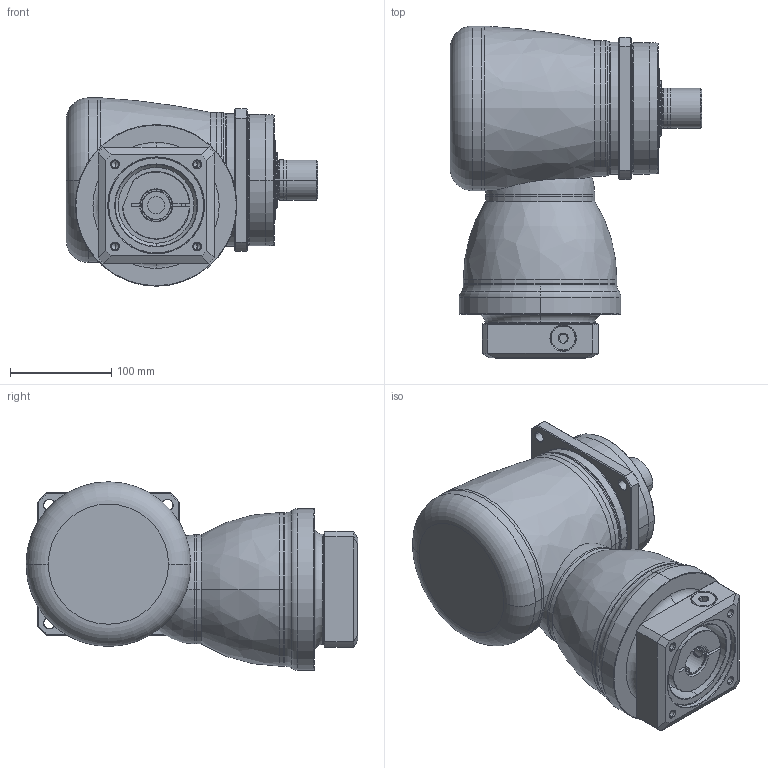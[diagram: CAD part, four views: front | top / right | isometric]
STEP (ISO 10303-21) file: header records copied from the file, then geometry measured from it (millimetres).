
FILE_DESCRIPTION((''),'2;1');
FILE_NAME('KF140_S3_1ST_28-P0409600101_ASM','2016-07-05T',('d01943'),(''),'PRO/ENGINEER BY PARAMETRIC TECHNOLOGY CORPORATION, 2008410','PRO/ENGINEER BY PARAMETRIC TECHNOLOGY CORPORATION, 2008410','');
FILE_SCHEMA(('CONFIG_CONTROL_DESIGN'));
Length unit declared in the file: millimetre
Products named in the file (11): P1008500002; P1804500001; P0915502001; P1315500001; P1007500001; P1318500101; P0409600101; P0503600010; P0912501201; 21711418017; KF140_S3_1ST_28-P0409600101_ASM
Assembly tree (10 placements, depth 2):
  KF140_S3_1ST_28-P0409600101_ASM
    P1008500002
    P1804500001
    P0915502001
    P1315500001
    P1007500001
    P1318500101
    P0409600101
    P0503600010
    P0912501201
    21711418017
Bounding box: 249 x 328.5 x 186.5 mm (x, y, z)
Volume: 5853347.5 mm3; surface area: 478356.7 mm2
Topology: 11 solids, 11 shells, 443 faces, 984 edges, 577 vertices
Faces by surface type: cylinder 142, cone 122, plane 92, torus 66, bspline 19, sphere 2
Entity records: 17160 total; most frequent: CARTESIAN_POINT 7125, DIRECTION 2225, ORIENTED_EDGE 1928, EDGE_CURVE 964, AXIS2_PLACEMENT_3D 943, VERTEX_POINT 577, EDGE_LOOP 501, CIRCLE 498
